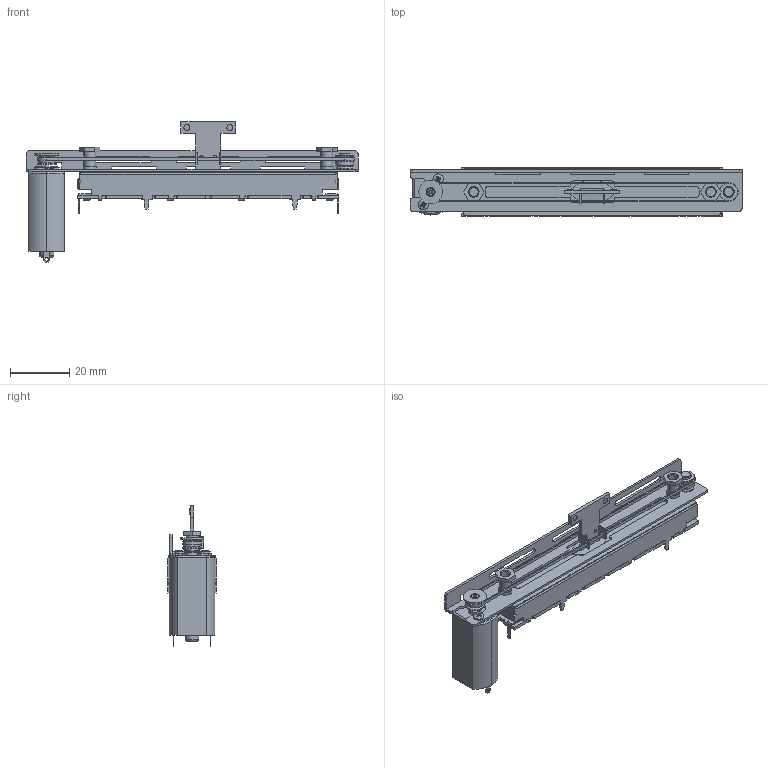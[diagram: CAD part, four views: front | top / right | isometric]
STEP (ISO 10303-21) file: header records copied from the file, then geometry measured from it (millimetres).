
FILE_DESCRIPTION(('FreeCAD Model'),'2;1');
FILE_NAME('Open CASCADE Shape Model','2023-03-17T15:54:05',(''),(''), 'Open CASCADE STEP processor 7.6','FreeCAD','Unknown');
FILE_SCHEMA(('AUTOMOTIVE_DESIGN { 1 0 10303 214 1 1 1 1 }'));
Products named in the file (1): Fusion002022
Bounding box: 112 x 16.5 x 47.5 mm (x, y, z)
Volume: 18938 mm3; surface area: 11844.3 mm2
Topology: 1 solids, 12 shells, 971 faces, 2562 edges, 1635 vertices
Faces by surface type: plane 665, cylinder 251, cone 31, torus 12, extrusion 8, sphere 2, revolution 2
Full cylindrical faces by diameter (mm): 0.5 x15, 1.2 x6, 1.25 x2, 1.3 x1, 1.5 x6, 1.7 x8, 2 x9, 3 x10, 3.2 x2, 3.5 x7, 3.7 x1, 4 x3, 4.5 x2, 4.7 x2, 5 x2, 5.38 x1, 5.6 x1, 6 x2, 6.5 x1, 8 x1
Entity records: 69591 total; most frequent: CARTESIAN_POINT 16152, DIRECTION 8409, ORIENTED_EDGE 5132, PCURVE 5120, DEFINITIONAL_REPRESENTATION 5120, VECTOR 4807, LINE 4799, EDGE_CURVE 2560
